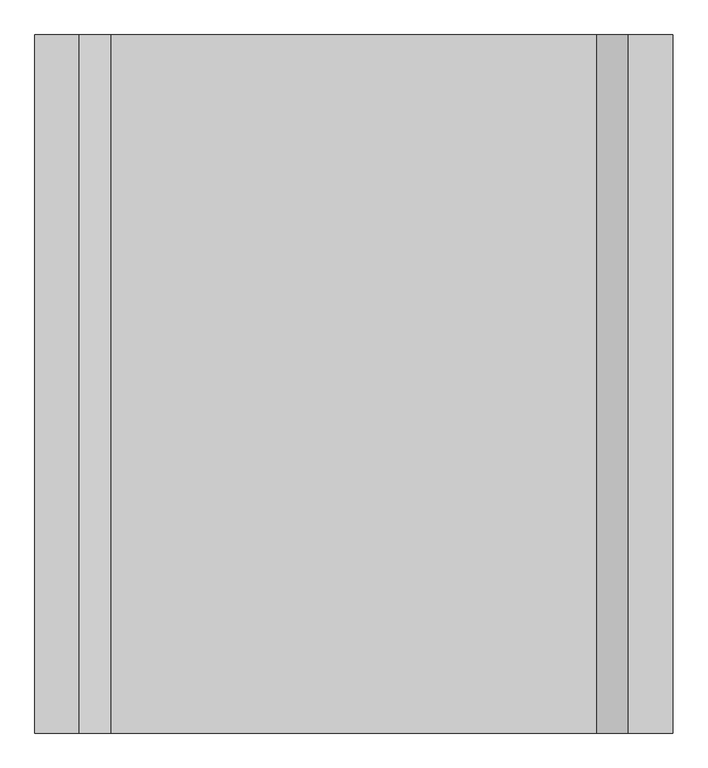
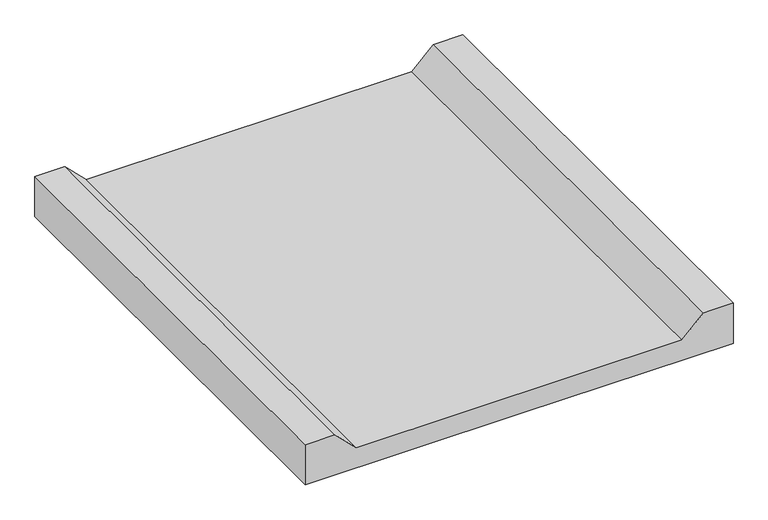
"""IFC4 building model written with IfcOpenShell, lengths in millimetres: proxy geometry, Traverse inférieur avec gousset : Traverse inférieur avec gousset 10.99."""

from ifc_helpers import new_model, si_unit, frame, origin, place, context, project, spatial, polyline, outline, extrude, source, transform, mapped, element, save


def generic_models_8fa42f42(model_context):
    return source(origin(), model_context, "Body", "SweptSolid", [
        extrude(outline(polyline([(0.0, -5025.0), (0.0, 0.0), (0.0, 5025.0), (1000.0, 5025.0), (1000.0, 4325.0), (500.0, 3825.0), (500.0, -3825.0), (1000.0, -4325.0), (1000.0, -5025.0), (0.0, -5025.0)])), frame((0.0, -10990.0, 0.0), z_axis=(0.0, 1.0, 0.0), x_axis=(0.0, 0.0, 1.0)), (0.0, 0.0, 1.0), 10990.0),
    ])


if __name__ == "__main__":
    model = new_model("IFC4")
    model_context = context("Model", 3, world=origin())
    ifc_project = project(units=[si_unit("LENGTHUNIT", "METRE", prefix="MILLI")], contexts=[model_context])
    site = spatial("IfcSite", under=ifc_project)
    building = spatial("IfcBuilding", under=site)
    placement = place(None, origin())
    generic_models_shape = generic_models_8fa42f42(model_context)
    element("IfcBuildingElementProxy", 1, Name="Traverse inférieur avec gousset : Traverse inférieur avec gousset 10.99", ObjectType="Traverse inférieur avec gousset : Traverse inférieur avec gousset 10.99", at=placement, inside=building, context=model_context, shape_type="MappedRepresentation", body=[
        mapped(generic_models_shape, transform((0.0, 0.0, 0.0), x_axis=(1.0, 0.0, 0.0), y_axis=(0.0, 1.0, 0.0), z_axis=(0.0, 0.0, 1.0))),
    ])
    save(model, "model.ifc")
